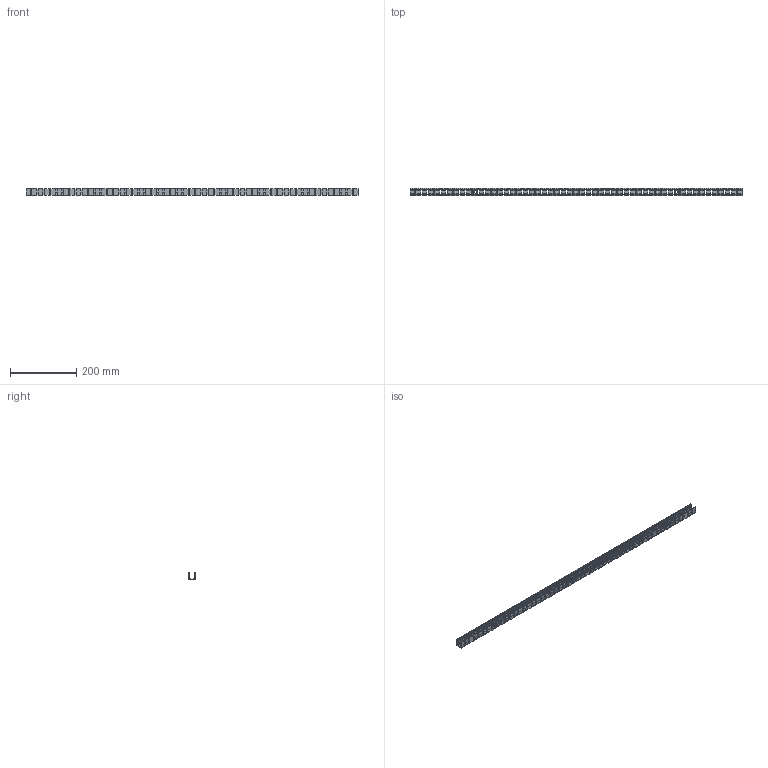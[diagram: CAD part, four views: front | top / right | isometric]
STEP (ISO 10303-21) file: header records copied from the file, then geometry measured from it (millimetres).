
FILE_DESCRIPTION(/* description */ (''),/* implementation_level */ '2;1');
FILE_NAME(/* name */ 'NF_1616_CURVED_PROFILE_SIDE_BEND_L1000_R01.step',/* time_stamp */ '2026-07-25T16:25:15+02:00',/* author */ (''),/* organization */ (''),/* preprocessor_version */ 'ST-DEVELOPER v20.1',/* originating_system */ 'Autodesk Translation Framework v15.8.0.0',/* authorisation */ '');
FILE_SCHEMA (('AUTOMOTIVE_DESIGN { 1 0 10303 214 3 1 1 }'));
Products named in the file (1): 2026-07-16-14-34-53-596
Bounding box: 1000 x 22 x 20.8 mm (x, y, z)
Volume: 108133.8 mm3; surface area: 195202.2 mm2
Topology: 3 solids, 3 shells, 3279 faces, 9819 edges, 6546 vertices
Faces by surface type: plane 2149, cylinder 1066, bspline 64
Entity records: 111399 total; most frequent: CARTESIAN_POINT 21193, ORIENTED_EDGE 19638, DIRECTION 18299, EDGE_CURVE 9819, LINE 7559, VECTOR 7559, VERTEX_POINT 6546, AXIS2_PLACEMENT_3D 5370
